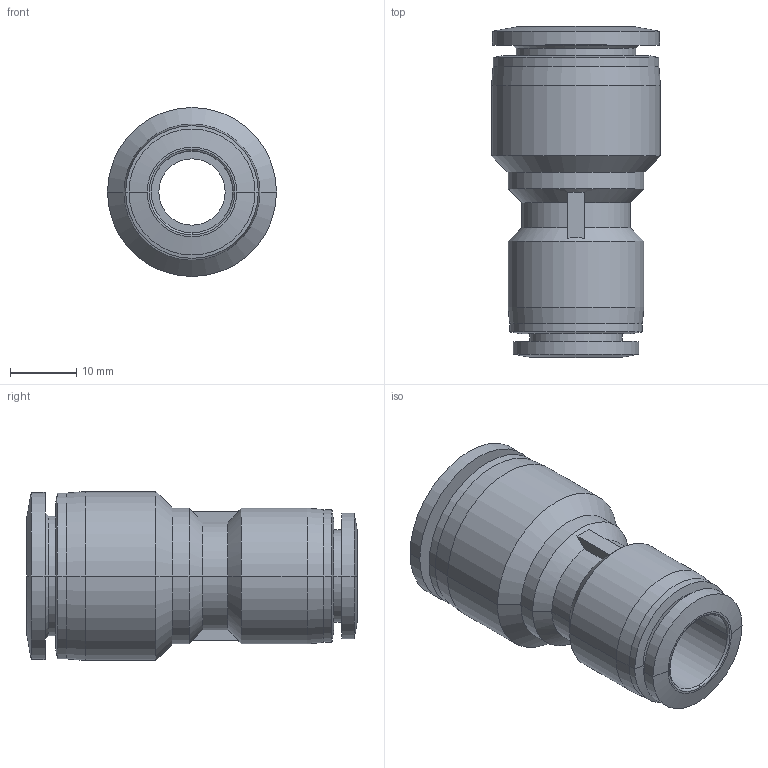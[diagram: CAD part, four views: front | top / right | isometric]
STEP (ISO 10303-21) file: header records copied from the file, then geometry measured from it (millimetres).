
FILE_DESCRIPTION (( 'STEP AP203' ), '1' );
FILE_NAME ('FRH16-12.STEP', '2020-05-12T15:01:57', ( '' ), ( '' ), 'SwSTEP 2.0', 'SolidWorks 2019', '' );
FILE_SCHEMA (( 'CONFIG_CONTROL_DESIGN' ));
Length unit declared in the file: millimetre
Products named in the file (1): FRH16-12
Bounding box: 25.5 x 49.9 x 25.5 mm (x, y, z)
Volume: 10538.3 mm3; surface area: 7048.8 mm2
Topology: 1 solids, 1 shells, 64 faces, 143 edges, 86 vertices
Faces by surface type: cylinder 27, cone 20, plane 13, bspline 2, torus 2
Entity records: 1926 total; most frequent: CARTESIAN_POINT 410, DIRECTION 331, ORIENTED_EDGE 286, EDGE_CURVE 143, AXIS2_PLACEMENT_3D 139, VERTEX_POINT 86, CIRCLE 76, EDGE_LOOP 71
